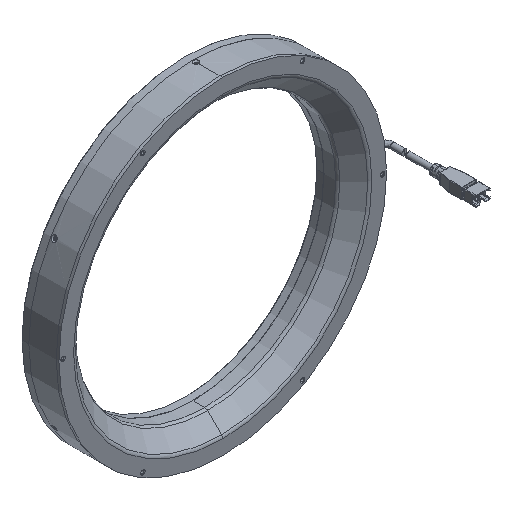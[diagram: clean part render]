
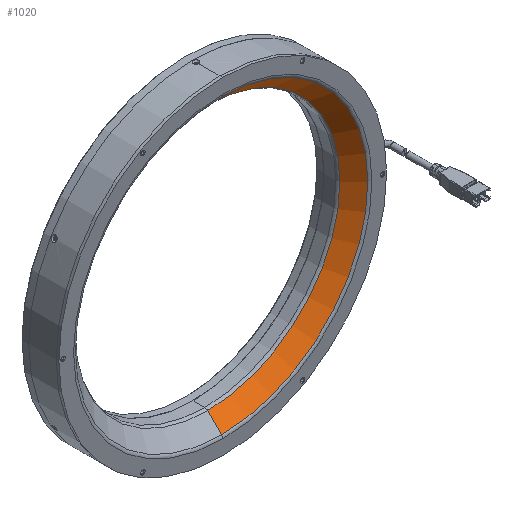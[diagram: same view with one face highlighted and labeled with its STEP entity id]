
A CAD part, isometric view. The second image highlights one B-rep face of the part: STEP entity #1020.
In plain terms, the highlighted conical face has half-angle 45 degrees and reference radius 96.879 mm.
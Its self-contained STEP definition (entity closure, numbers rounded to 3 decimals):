
#259 = DIRECTION ( 'NONE',  ( 0., -0.707, 0.707 ) ) ;
#269 = ORIENTED_EDGE ( 'NONE', *, *, #3657, .T. ) ;
#603 = EDGE_CURVE ( 'NONE', #7622, #2384, #8884, .T. ) ;
#958 = VECTOR ( 'NONE', #2281, 1000. ) ;
#1020 = ADVANCED_FACE ( 'NONE', ( #6387 ), #9830, .F. ) ;
#1070 = DIRECTION ( 'NONE',  ( 0., 1., 0. ) ) ;
#1126 = CARTESIAN_POINT ( 'NONE',  ( 0., -16.898, 0. ) ) ;
#1345 = VERTEX_POINT ( 'NONE', #2355 ) ;
#1572 = CARTESIAN_POINT ( 'NONE',  ( 0., -16.898, -96.879 ) ) ;
#2281 = DIRECTION ( 'NONE',  ( 0., -0.707, -0.707 ) ) ;
#2355 = CARTESIAN_POINT ( 'NONE',  ( 0., -16.898, 96.879 ) ) ;
#2384 = VERTEX_POINT ( 'NONE', #4729 ) ;
#2533 = ORIENTED_EDGE ( 'NONE', *, *, #603, .F. ) ;
#2544 = ORIENTED_EDGE ( 'NONE', *, *, #9496, .T. ) ;
#2756 = CARTESIAN_POINT ( 'NONE',  ( 0., -27.121, 107.102 ) ) ;
#3657 = EDGE_CURVE ( 'NONE', #4916, #2384, #3673, .T. ) ;
#3673 = LINE ( 'NONE', #6827, #958 ) ;
#4040 = CARTESIAN_POINT ( 'NONE',  ( 0., -16.898, 96.879 ) ) ;
#4523 = AXIS2_PLACEMENT_3D ( 'NONE', #7556, #6107, #9745 ) ;
#4729 = CARTESIAN_POINT ( 'NONE',  ( 0., -27.121, -107.102 ) ) ;
#4916 = VERTEX_POINT ( 'NONE', #1572 ) ;
#5737 = DIRECTION ( 'NONE',  ( 0., -1., 0. ) ) ;
#6107 = DIRECTION ( 'NONE',  ( 0., 1., 0. ) ) ;
#6387 = FACE_OUTER_BOUND ( 'NONE', #6829, .T. ) ;
#6792 = LINE ( 'NONE', #4040, #7891 ) ;
#6827 = CARTESIAN_POINT ( 'NONE',  ( 0., -16.898, -96.879 ) ) ;
#6829 = EDGE_LOOP ( 'NONE', ( #8644, #2544, #269, #2533 ) ) ;
#7184 = DIRECTION ( 'NONE',  ( 0., 0., 1. ) ) ;
#7249 = CARTESIAN_POINT ( 'NONE',  ( 0., -27.121, 0. ) ) ;
#7556 = CARTESIAN_POINT ( 'NONE',  ( 0., -16.898, 0. ) ) ;
#7621 = AXIS2_PLACEMENT_3D ( 'NONE', #1126, #5737, #9535 ) ;
#7622 = VERTEX_POINT ( 'NONE', #2756 ) ;
#7891 = VECTOR ( 'NONE', #259, 1000. ) ;
#8593 = CIRCLE ( 'NONE', #4523, 96.879 ) ;
#8644 = ORIENTED_EDGE ( 'NONE', *, *, #9806, .F. ) ;
#8884 = CIRCLE ( 'NONE', #9334, 107.102 ) ;
#9334 = AXIS2_PLACEMENT_3D ( 'NONE', #7249, #1070, #7184 ) ;
#9496 = EDGE_CURVE ( 'NONE', #1345, #4916, #8593, .T. ) ;
#9535 = DIRECTION ( 'NONE',  ( 0., 0., -1. ) ) ;
#9745 = DIRECTION ( 'NONE',  ( 0., 0., 1. ) ) ;
#9806 = EDGE_CURVE ( 'NONE', #1345, #7622, #6792, .T. ) ;
#9830 = CONICAL_SURFACE ( 'NONE', #7621, 96.879, 0.785 ) ;
